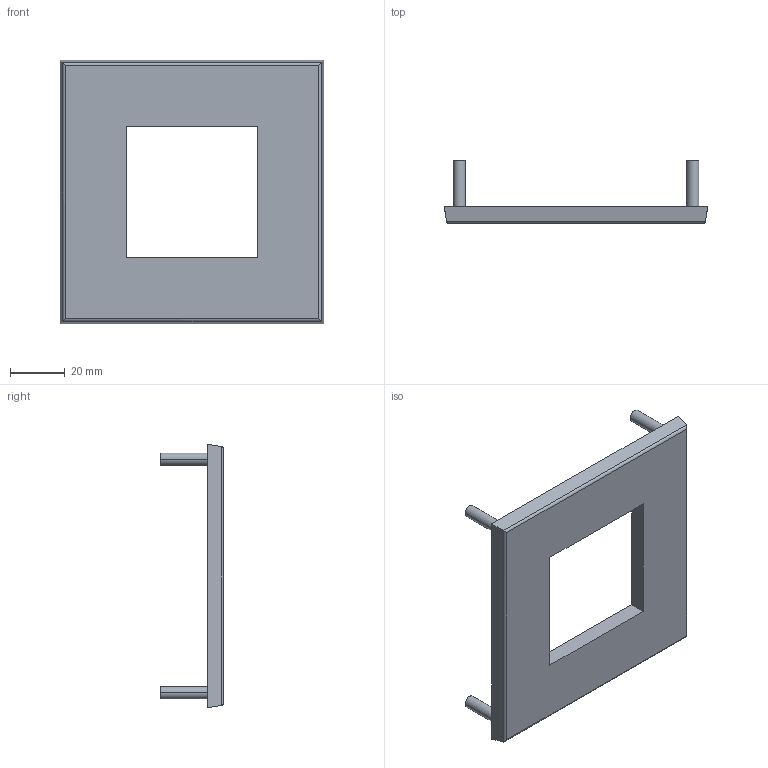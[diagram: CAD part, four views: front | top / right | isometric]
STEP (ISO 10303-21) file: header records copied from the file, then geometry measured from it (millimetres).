
FILE_DESCRIPTION((''),'2;1');
FILE_NAME('96X96_TO_48X48_ADAPTER_IGESFILE','2012-04-04T',('chrisloe'),(''),'PRO/ENGINEER BY PARAMETRIC TECHNOLOGY CORPORATION, 2010180','PRO/ENGINEER BY PARAMETRIC TECHNOLOGY CORPORATION, 2010180','');
FILE_SCHEMA(('CONFIG_CONTROL_DESIGN'));
Length unit declared in the file: millimetre
Products named in the file (1): 96X96_TO_48X48_ADAPTER_IGESFILE
Bounding box: 96 x 23 x 96 mm (x, y, z)
Volume: 18569.9 mm3; surface area: 20290 mm2
Topology: 1 solids, 1 shells, 36 faces, 80 edges, 52 vertices
Faces by surface type: plane 24, cylinder 12
Entity records: 1049 total; most frequent: CARTESIAN_POINT 195, DIRECTION 164, ORIENTED_EDGE 160, EDGE_CURVE 80, VECTOR 60, LINE 60, AXIS2_PLACEMENT_3D 52, VERTEX_POINT 52
